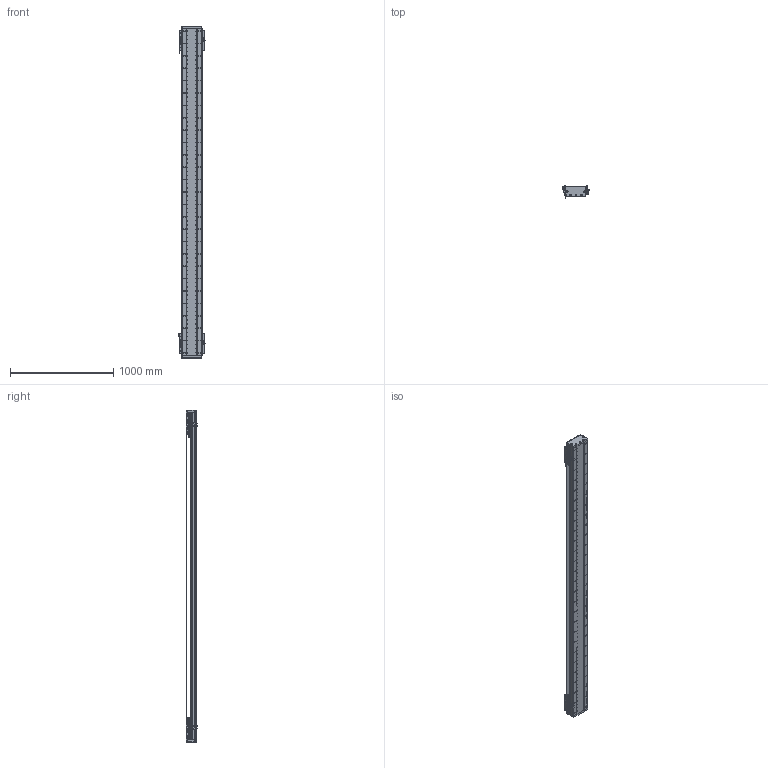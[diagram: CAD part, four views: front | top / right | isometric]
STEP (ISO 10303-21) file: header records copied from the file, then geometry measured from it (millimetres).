
FILE_DESCRIPTION (( 'STEP AP203' ), '1' );
FILE_NAME ('DA-C195-2-C2-T2720-C010-0.2 眻盄萇儂.STEP', '2025-08-14T02:14:07', ( '' ), ( '' ), 'SwSTEP 2.0', 'SolidWorks 2019', '' );
FILE_SCHEMA (( 'CONFIG_CONTROL_DESIGN' ));
Length unit declared in the file: millimetre
Products named in the file (19): DA195詩湍郪璃-1; IU-CU195-L 菁釱絳寢-1; DA195詩湍嶺輸-1; CU195-C2賑輸-俋楷-1; DKW-GYP-ZJ-00 笢潔嫖萇覜茼え-1; DA195詩湍菜輸-1; IU-CU195-L-00 菁釱(L3180); MS200 棠掑喜S315-T1740-1; DA95-HXJ-00 遣喳砎蝶-1; LMT黍杅芛-1; DA195詩湍裔啣-1; DA165-GYP-00 光电感应片(默认)-1; DA-C195-2-C2-T2720-C010-0.2 眻盄萇儂; DA-C195-GD-DB-H-00 傷啣-1; 葩璃 DA95-GT-T-00-1; DKW-KGZ-ZJ-00 中间光电开关支架-1; DKW168-HXJ-ZJ-00 笢潔滅袉砎蝶-1; PM-T45ㄗ侂狟ㄘ-1; PM-Y65嫖萇羲壽郪璃-1
Assembly tree (37 placements, depth 3):
  DA-C195-2-C2-T2720-C010-0.2 眻盄萇儂
    DA195詩湍郪璃-1
      DA195詩湍菜輸-1  x2
      DA195詩湍裔啣-1
      DA195詩湍嶺輸-1  x2
      DA95-HXJ-00 遣喳砎蝶-1  x8
      DA-C195-GD-DB-H-00 傷啣-1  x2
    IU-CU195-L 菁釱絳寢-1
      IU-CU195-L-00 菁釱(L3180)
      葩璃 DA95-GT-T-00-1  x4
    LMT黍杅芛-1  x2
    MS200 棠掑喜S315-T1740-1
    PM-T45ㄗ侂狟ㄘ-1  x4
    DA165-GYP-00 光电感应片(默认)-1  x2
    PM-Y65嫖萇羲壽郪璃-1
    DKW168-HXJ-ZJ-00 笢潔滅袉砎蝶-1
    DKW-GYP-ZJ-00 笢潔嫖萇覜茼え-1
    DKW-KGZ-ZJ-00 中间光电开关支架-1
    CU195-C2賑輸-俋楷-1  x2
Bounding box: 258.2 x 115.45 x 3220 mm (x, y, z)
Volume: 19277482.6 mm3; surface area: 5652612.6 mm2
Topology: 114 solids, 242 shells, 7267 faces, 19583 edges, 12225 vertices
Faces by surface type: cylinder 3548, plane 2635, cone 916, torus 88, sphere 72, bspline 8
Entity records: 164481 total; most frequent: CARTESIAN_POINT 45823, ORIENTED_EDGE 24998, DIRECTION 23514, EDGE_CURVE 12499, AXIS2_PLACEMENT_3D 8685, VERTEX_POINT 8112, VECTOR 6144, LINE 6144
